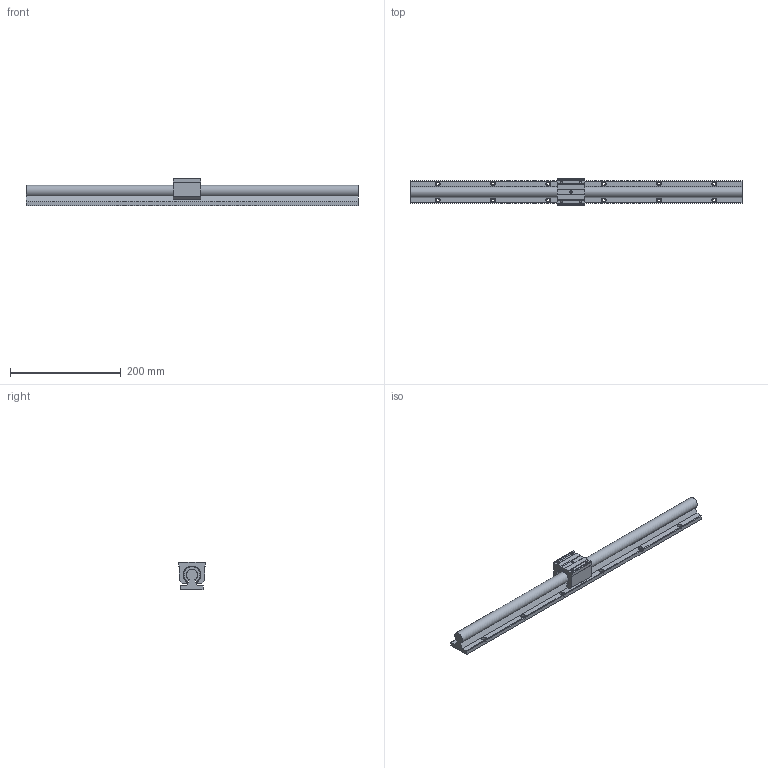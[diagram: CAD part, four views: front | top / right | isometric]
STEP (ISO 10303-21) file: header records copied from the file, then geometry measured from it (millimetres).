
FILE_DESCRIPTION((''),'2;1');
FILE_NAME('D:\製品 (図面)\カタログ用3D\リニアガイド関連\STEP形式\GH(C)\GH(C)20.stp','2010-06-02T15:42:44',('Tsuchiya'),(''),'Autodesk Inventor 10','Autodesk Inventor 10','');
FILE_SCHEMA(('AUTOMOTIVE_DESIGN { 1 0 10303 214 1 1 1 1 }'));
Length unit declared in the file: millimetre
Products named in the file (3): GH(C)20; GH(C)201; GH(C)202
Assembly tree (2 placements, depth 2):
  GH(C)20
    GH(C)201
    GH(C)202
Bounding box: 600 x 48 x 50 mm (x, y, z)
Volume: 511775.5 mm3; surface area: 109524.1 mm2
Topology: 2 solids, 2 shells, 126 faces, 360 edges, 235 vertices
Faces by surface type: plane 56, bspline 42, cylinder 23, cone 3, torus 2
Full cylindrical faces by diameter (mm): 4.134 x2
Entity records: 4410 total; most frequent: CARTESIAN_POINT 1372, ORIENTED_EDGE 614, DIRECTION 565, EDGE_CURVE 307, VERTEX_POINT 216, AXIS2_PLACEMENT_3D 191, EDGE_LOOP 185, VECTOR 183
